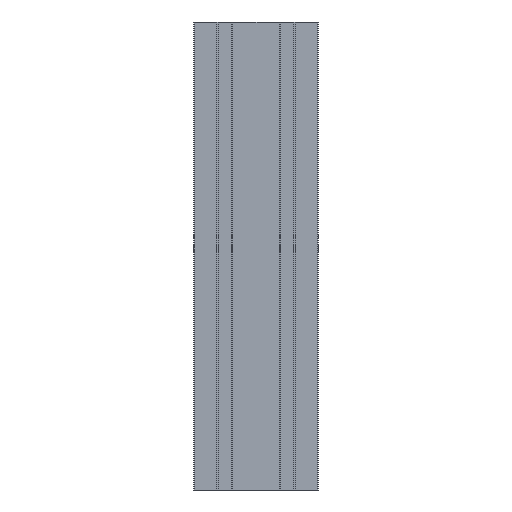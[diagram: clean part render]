
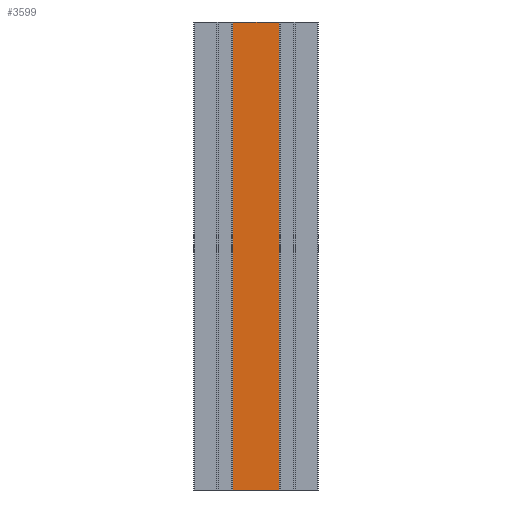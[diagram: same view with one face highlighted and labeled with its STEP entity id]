
A CAD part, front view. The second image highlights one B-rep face of the part: STEP entity #3599.
In plain terms, the highlighted planar face has unit normal (0, -1, 0).
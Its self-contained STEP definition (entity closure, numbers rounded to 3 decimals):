
#76 = CARTESIAN_POINT ( 'NONE',  ( 14.9, -20., 150. ) ) ;
#227 = EDGE_CURVE ( 'NONE', #5862, #2369, #1600, .T. ) ;
#285 = DIRECTION ( 'NONE',  ( 1., 0., 0. ) ) ;
#339 = LINE ( 'NONE', #6233, #4582 ) ;
#441 = PLANE ( 'NONE',  #607 ) ;
#574 = EDGE_CURVE ( 'NONE', #2369, #3474, #1401, .T. ) ;
#607 = AXIS2_PLACEMENT_3D ( 'NONE', #2951, #2288, #1605 ) ;
#676 = EDGE_CURVE ( 'NONE', #6154, #3474, #1123, .T. ) ;
#714 = CARTESIAN_POINT ( 'NONE',  ( 14.9, -20., -150. ) ) ;
#934 = CARTESIAN_POINT ( 'NONE',  ( -14.9, -20., 150. ) ) ;
#1044 = CARTESIAN_POINT ( 'NONE',  ( -14.9, -20., 150. ) ) ;
#1123 = LINE ( 'NONE', #2976, #5723 ) ;
#1275 = FACE_OUTER_BOUND ( 'NONE', #6255, .T. ) ;
#1401 = LINE ( 'NONE', #76, #5594 ) ;
#1520 = ORIENTED_EDGE ( 'NONE', *, *, #227, .F. ) ;
#1600 = LINE ( 'NONE', #934, #2276 ) ;
#1605 = DIRECTION ( 'NONE',  ( 0., 0., 1. ) ) ;
#2276 = VECTOR ( 'NONE', #285, 1000. ) ;
#2288 = DIRECTION ( 'NONE',  ( 0., 1., 0. ) ) ;
#2317 = DIRECTION ( 'NONE',  ( 1., 0., 0. ) ) ;
#2369 = VERTEX_POINT ( 'NONE', #4819 ) ;
#2951 = CARTESIAN_POINT ( 'NONE',  ( -14.9, -20., 150. ) ) ;
#2976 = CARTESIAN_POINT ( 'NONE',  ( -14.9, -20., -150. ) ) ;
#3474 = VERTEX_POINT ( 'NONE', #714 ) ;
#3599 = ADVANCED_FACE ( 'NONE', ( #1275 ), #441, .F. ) ;
#3664 = CARTESIAN_POINT ( 'NONE',  ( -14.9, -20., -150. ) ) ;
#3789 = ORIENTED_EDGE ( 'NONE', *, *, #676, .T. ) ;
#4582 = VECTOR ( 'NONE', #5542, 1000. ) ;
#4819 = CARTESIAN_POINT ( 'NONE',  ( 14.9, -20., 150. ) ) ;
#5067 = ORIENTED_EDGE ( 'NONE', *, *, #5158, .T. ) ;
#5158 = EDGE_CURVE ( 'NONE', #5862, #6154, #339, .T. ) ;
#5542 = DIRECTION ( 'NONE',  ( 0., 0., -1. ) ) ;
#5594 = VECTOR ( 'NONE', #5967, 1000. ) ;
#5723 = VECTOR ( 'NONE', #2317, 1000. ) ;
#5811 = ORIENTED_EDGE ( 'NONE', *, *, #574, .F. ) ;
#5862 = VERTEX_POINT ( 'NONE', #1044 ) ;
#5967 = DIRECTION ( 'NONE',  ( 0., 0., -1. ) ) ;
#6154 = VERTEX_POINT ( 'NONE', #3664 ) ;
#6233 = CARTESIAN_POINT ( 'NONE',  ( -14.9, -20., 150. ) ) ;
#6255 = EDGE_LOOP ( 'NONE', ( #3789, #5811, #1520, #5067 ) ) ;
